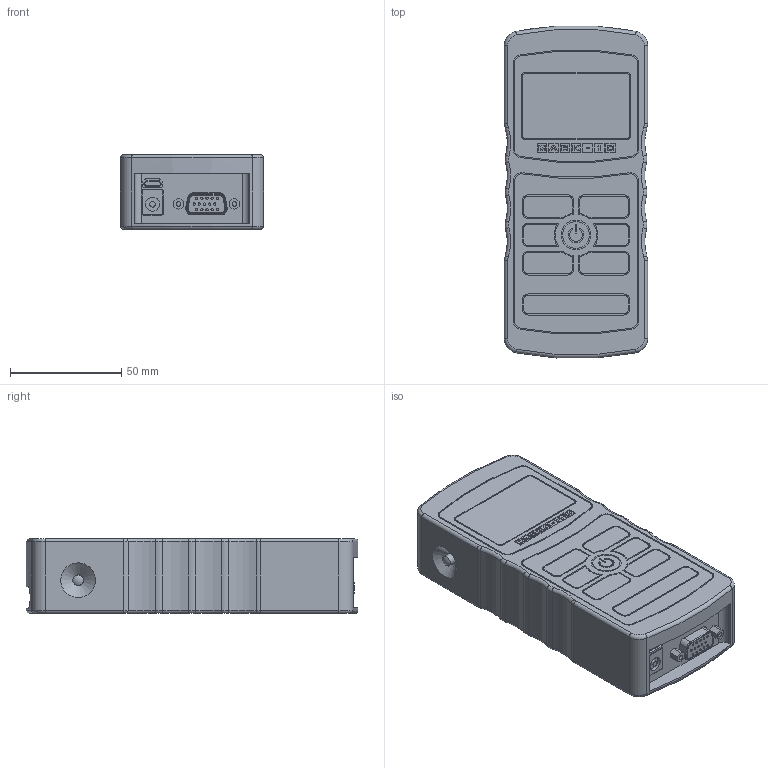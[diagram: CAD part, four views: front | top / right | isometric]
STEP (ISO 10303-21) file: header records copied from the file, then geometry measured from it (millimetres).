
FILE_DESCRIPTION(/* description */ (''),/* implementation_level */ '2;1');
FILE_NAME(/* name */ 'F:\MARKETING\SOLID MODELS\INDICATORS\M7I\M7I.stp',/* time_stamp */ '2024-03-26T16:41:05-04:00',/* author */ ('ntakaki'),/* organization */ (''),/* preprocessor_version */ 'ST-DEVELOPER v18.1',/* originating_system */ 'AutoCAD Mechanical',/* authorisation */ '');
FILE_SCHEMA (('AUTOMOTIVE_DESIGN { 1 0 10303 214 3 1 1 }'));
Length unit declared in the file: inch
Products named in the file (1): Product
Bounding box: 64.26 x 148.95 x 33.64 mm (x, y, z)
Volume: 291507 mm3; surface area: 39960.9 mm2
Topology: 1 solids, 4 shells, 665 faces, 1606 edges, 1034 vertices
Faces by surface type: plane 362, cylinder 233, torus 56, cone 8, sphere 6
Full cylindrical faces by diameter (mm): 1.016 x15, 2.063 x2, 2.068 x2, 2.5 x1, 3.175 x2, 3.505 x4, 4 x2, 4.762 x2, 5.486 x2, 6.096 x2, 6.299 x1, 12.065 x1, 13.335 x1
Entity records: 19493 total; most frequent: DIRECTION 3496, CARTESIAN_POINT 3412, ORIENTED_EDGE 3212, EDGE_CURVE 1606, AXIS2_PLACEMENT_3D 1242, VERTEX_POINT 1034, LINE 1012, VECTOR 1012
